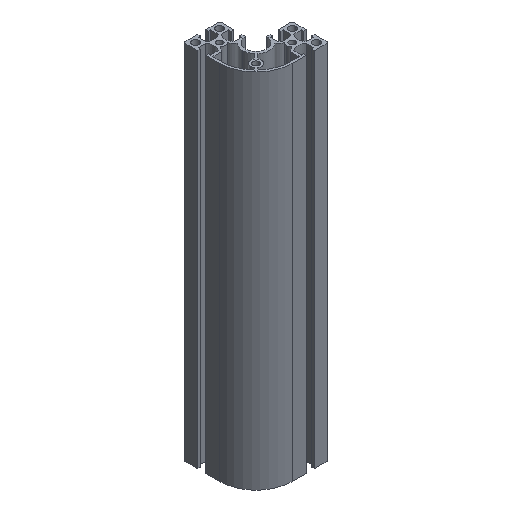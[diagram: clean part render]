
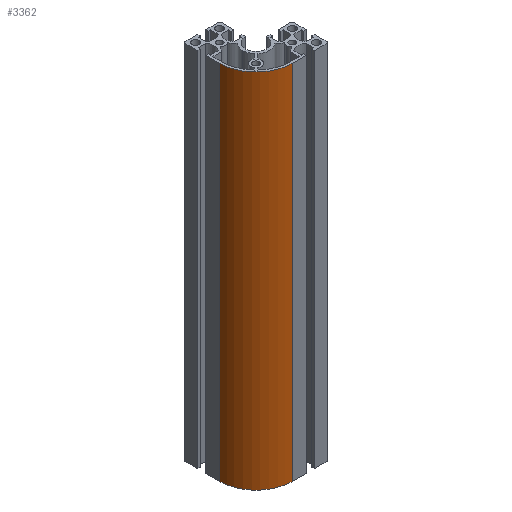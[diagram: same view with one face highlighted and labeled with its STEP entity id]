
A CAD part, isometric view. The second image highlights one B-rep face of the part: STEP entity #3362.
In plain terms, the highlighted cylindrical face has radius 30 mm (diameter 60 mm), a partial arc.
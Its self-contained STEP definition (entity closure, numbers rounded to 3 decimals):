
#16 = EDGE_CURVE ( 'NONE', #3046, #3000, #1874, .T. ) ;
#35 = EDGE_CURVE ( 'NONE', #2905, #2928, #1790, .T. ) ;
#271 = DIRECTION ( 'NONE',  ( 0., 0., 1. ) ) ;
#321 = VECTOR ( 'NONE', #1077, 1000. ) ;
#379 = CARTESIAN_POINT ( 'NONE',  ( -29.7, 0.3, 150. ) ) ;
#418 = CARTESIAN_POINT ( 'NONE',  ( 0.3, 0.3, 150. ) ) ;
#646 = CARTESIAN_POINT ( 'NONE',  ( 0.3, 0.3, -150. ) ) ;
#704 = DIRECTION ( 'NONE',  ( 1., 0., 0. ) ) ;
#1064 = DIRECTION ( 'NONE',  ( 0., 0., 1. ) ) ;
#1077 = DIRECTION ( 'NONE',  ( 0., 0., -1. ) ) ;
#1095 = AXIS2_PLACEMENT_3D ( 'NONE', #646, #271, #3474 ) ;
#1131 = EDGE_CURVE ( 'NONE', #3000, #2928, #2028, .T. ) ;
#1163 = DIRECTION ( 'NONE',  ( 0., 0., -1. ) ) ;
#1255 = VECTOR ( 'NONE', #1163, 1000. ) ;
#1266 = CARTESIAN_POINT ( 'NONE',  ( 0.3, -29.7, 150. ) ) ;
#1379 = ORIENTED_EDGE ( 'NONE', *, *, #35, .F. ) ;
#1429 = CARTESIAN_POINT ( 'NONE',  ( 0.3, -29.7, 150. ) ) ;
#1517 = CARTESIAN_POINT ( 'NONE',  ( -29.7, 0.3, 150. ) ) ;
#1530 = CARTESIAN_POINT ( 'NONE',  ( 0.3, -29.7, -150. ) ) ;
#1545 = DIRECTION ( 'NONE',  ( 0., 0., -1. ) ) ;
#1583 = AXIS2_PLACEMENT_3D ( 'NONE', #418, #1064, #704 ) ;
#1790 = LINE ( 'NONE', #1429, #321 ) ;
#1874 = LINE ( 'NONE', #1517, #1255 ) ;
#1898 = CARTESIAN_POINT ( 'NONE',  ( 0.3, 0.3, 150. ) ) ;
#2017 = EDGE_LOOP ( 'NONE', ( #2100, #1379, #2983, #3522 ) ) ;
#2028 = CIRCLE ( 'NONE', #1095, 30. ) ;
#2100 = ORIENTED_EDGE ( 'NONE', *, *, #1131, .T. ) ;
#2152 = FACE_OUTER_BOUND ( 'NONE', #2017, .T. ) ;
#2252 = CYLINDRICAL_SURFACE ( 'NONE', #2353, 30. ) ;
#2353 = AXIS2_PLACEMENT_3D ( 'NONE', #1898, #1545, #3035 ) ;
#2508 = EDGE_CURVE ( 'NONE', #3046, #2905, #3447, .T. ) ;
#2905 = VERTEX_POINT ( 'NONE', #1266 ) ;
#2928 = VERTEX_POINT ( 'NONE', #1530 ) ;
#2983 = ORIENTED_EDGE ( 'NONE', *, *, #2508, .F. ) ;
#3000 = VERTEX_POINT ( 'NONE', #3472 ) ;
#3035 = DIRECTION ( 'NONE',  ( -1., 0., 0. ) ) ;
#3046 = VERTEX_POINT ( 'NONE', #379 ) ;
#3362 = ADVANCED_FACE ( 'NONE', ( #2152 ), #2252, .T. ) ;
#3447 = CIRCLE ( 'NONE', #1583, 30. ) ;
#3472 = CARTESIAN_POINT ( 'NONE',  ( -29.7, 0.3, -150. ) ) ;
#3474 = DIRECTION ( 'NONE',  ( 1., 0., 0. ) ) ;
#3522 = ORIENTED_EDGE ( 'NONE', *, *, #16, .T. ) ;
